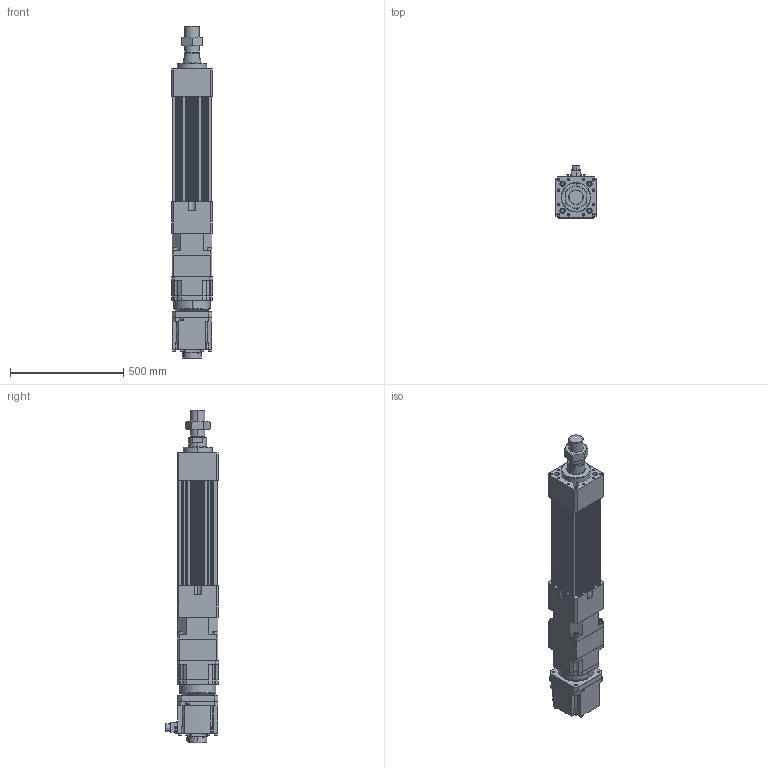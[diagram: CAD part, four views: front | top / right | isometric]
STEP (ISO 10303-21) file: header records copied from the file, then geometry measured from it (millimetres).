
FILE_DESCRIPTION (( 'STEP AP203' ), '1' );
FILE_NAME ('HES180HS-S150-W050G00-M.STEP', '2023-02-01T09:33:41', ( 'tms' ), ( '' ), 'SwSTEP 2.0', 'SolidWorks 2013', '' );
FILE_SCHEMA (( 'CONFIG_CONTROL_DESIGN' ));
Length unit declared in the file: millimetre
Products named in the file (9): M64X2.0P; HG-SR502; AB1801; P0403600401; HES180 ROD M ST150; HES180HS-S150-W050G00-M; AB180-003[HG-SR702B]; HES180-S150-G180; P1301600001
Assembly tree (8 placements, depth 3):
  HES180HS-S150-W050G00-M
    HES180-S150-G180
    HES180 ROD M ST150
    M64X2.0P
    AB180-003[HG-SR702B]
      AB1801
      P1301600001
      P0403600401
    HG-SR502
Bounding box: 180 x 230.85 x 1467 mm (x, y, z)
Volume: 21868421.3 mm3; surface area: 1972224.4 mm2
Topology: 4 solids, 23 shells, 1534 faces, 3945 edges, 2546 vertices
Faces by surface type: cylinder 693, plane 600, cone 174, bspline 63, torus 4
Entity records: 55246 total; most frequent: CARTESIAN_POINT 16431, DIRECTION 8177, ORIENTED_EDGE 7750, EDGE_CURVE 3899, AXIS2_PLACEMENT_3D 3072, VERTEX_POINT 2546, VECTOR 2033, LINE 2033
